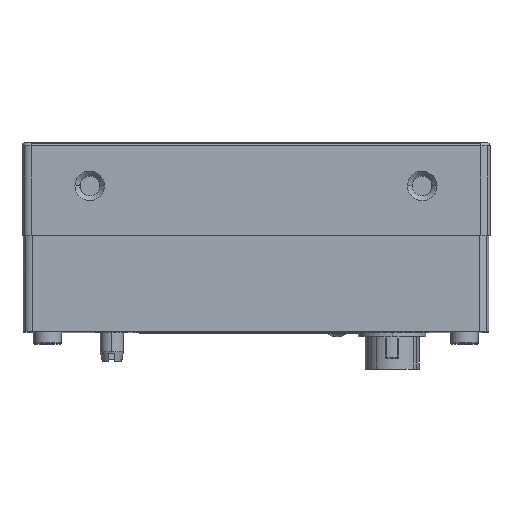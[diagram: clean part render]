
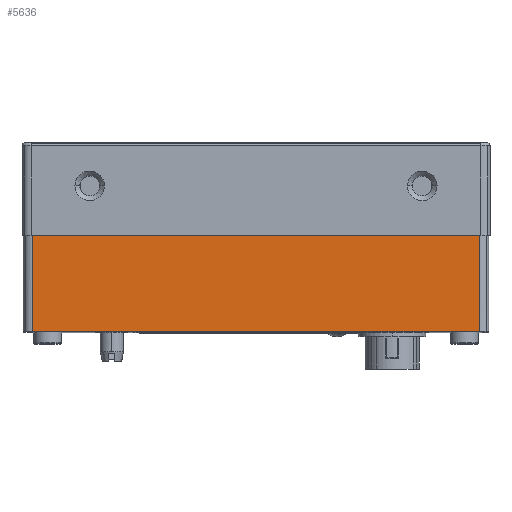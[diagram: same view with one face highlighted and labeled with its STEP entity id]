
A CAD part, top view. The second image highlights one B-rep face of the part: STEP entity #5636.
In plain terms, the highlighted planar face has unit normal (0, 0, 1).
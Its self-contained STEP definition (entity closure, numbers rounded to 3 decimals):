
#5013=CARTESIAN_POINT('Vertex',(36.3,-10.62,37.8)) ;
#5016=CARTESIAN_POINT('Line Origine',(0.,-10.62,37.8)) ;
#5020=CARTESIAN_POINT('Vertex',(-36.3,-10.62,37.8)) ;
#5598=CARTESIAN_POINT('Vertex',(36.3,5.,37.8)) ;
#5601=CARTESIAN_POINT('Line Origine',(36.3,-20.,37.8)) ;
#5613=CARTESIAN_POINT('Axis2P3D Location',(-37.8,-20.,37.8)) ;
#5618=CARTESIAN_POINT('Line Origine',(0.,5.,37.8)) ;
#5622=CARTESIAN_POINT('Vertex',(-36.3,5.,37.8)) ;
#5625=CARTESIAN_POINT('Line Origine',(-36.3,-2.81,37.8)) ;
#5017=DIRECTION('Vector Direction',(-1.,0.,0.)) ;
#5602=DIRECTION('Vector Direction',(0.,1.,0.)) ;
#5614=DIRECTION('Axis2P3D Direction',(0.,0.,1.)) ;
#5615=DIRECTION('Axis2P3D XDirection',(1.,0.,0.)) ;
#5619=DIRECTION('Vector Direction',(-1.,0.,0.)) ;
#5626=DIRECTION('Vector Direction',(0.,1.,0.)) ;
#5616=AXIS2_PLACEMENT_3D('Plane Axis2P3D',#5613,#5614,#5615) ;
#5631=ORIENTED_EDGE('',*,*,#5605,.F.) ;
#5632=ORIENTED_EDGE('',*,*,#5624,.T.) ;
#5633=ORIENTED_EDGE('',*,*,#5629,.F.) ;
#5634=ORIENTED_EDGE('',*,*,#5022,.F.) ;
#5018=VECTOR('Line Direction',#5017,1.) ;
#5603=VECTOR('Line Direction',#5602,1.) ;
#5620=VECTOR('Line Direction',#5619,1.) ;
#5627=VECTOR('Line Direction',#5626,1.) ;
#5636=ADVANCED_FACE('Solid3',(#5635),#5617,.T.) ;
#5022=EDGE_CURVE('',#5014,#5021,#5019,.T.) ;
#5605=EDGE_CURVE('',#5599,#5014,#5604,.F.) ;
#5624=EDGE_CURVE('',#5599,#5623,#5621,.T.) ;
#5629=EDGE_CURVE('',#5021,#5623,#5628,.T.) ;
#5630=EDGE_LOOP('',(#5631,#5632,#5633,#5634)) ;
#5635=FACE_OUTER_BOUND('',#5630,.T.) ;
#5019=LINE('Line',#5016,#5018) ;
#5604=LINE('Line',#5601,#5603) ;
#5621=LINE('Line',#5618,#5620) ;
#5628=LINE('Line',#5625,#5627) ;
#5617=PLANE('',#5616) ;
#5014=VERTEX_POINT('',#5013) ;
#5021=VERTEX_POINT('',#5020) ;
#5599=VERTEX_POINT('',#5598) ;
#5623=VERTEX_POINT('',#5622) ;
